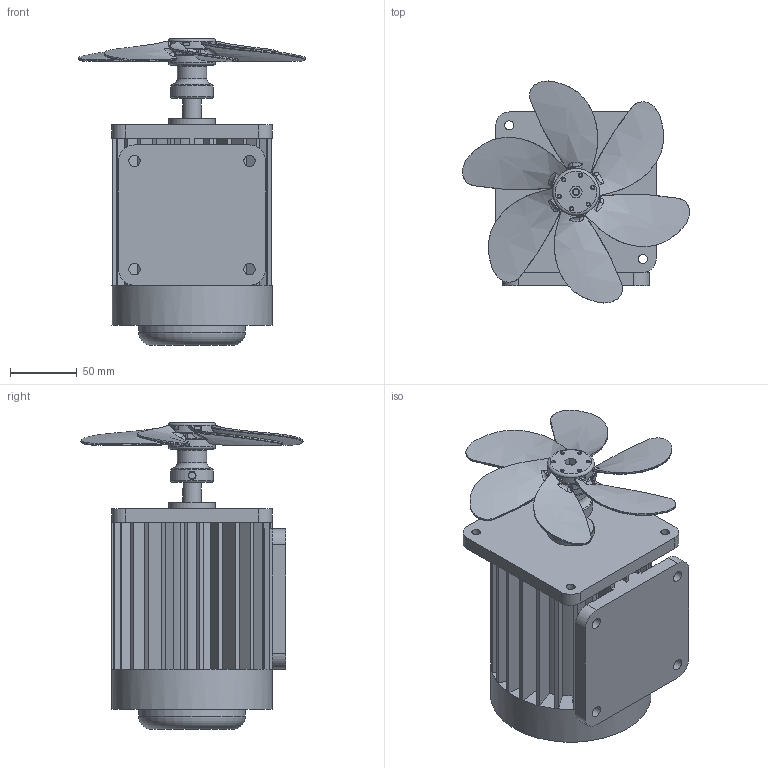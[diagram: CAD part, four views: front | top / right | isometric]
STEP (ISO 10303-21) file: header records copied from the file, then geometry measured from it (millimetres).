
FILE_DESCRIPTION(/* description */ (''),/* implementation_level */ '2;1');
FILE_NAME(/* name */ 'Assieme_motore_trifase.stp',/* time_stamp */ '2025-02-05T20:00:48+01:00',/* author */ ('R5800u'),/* organization */ (''),/* preprocessor_version */ 'ST-DEVELOPER v20',/* originating_system */ 'Autodesk Inventor 2025',/* authorisation */ '');
FILE_SCHEMA (('AUTOMOTIVE_DESIGN { 1 0 10303 214 3 1 1 }'));
Length unit declared in the file: millimetre
Products named in the file (8): Assieme_motore_trifase; albero_motore_trifase; blocco_albero; Assieme_componibile_6p_b; blocco_centrale; AS 1420 - 1973 - M3 x 16; dado_quadrato_m3; fan_assembla
Assembly tree (22 placements, depth 3):
  Assieme_motore_trifase
    albero_motore_trifase
    blocco_albero
    Assieme_componibile_6p_b
      blocco_centrale
      AS 1420 - 1973 - M3 x 16  x6
      dado_quadrato_m3  x6
      fan_assembla  x6
Bounding box: 169.7 x 166.1 x 229.5 mm (x, y, z)
Volume: 1532427.2 mm3; surface area: 254654.4 mm2
Topology: 21 solids, 21 shells, 852 faces, 2430 edges, 1632 vertices
Faces by surface type: plane 420, cylinder 210, bspline 171, torus 36, cone 15
Full cylindrical faces by diameter (mm): 2.459 x6, 3 x24, 3.2 x6, 4.3 x1, 5 x1, 5.3 x1, 5.5 x6, 6.5 x6, 6.647 x4, 8.4 x4, 14.2 x1, 22 x1, 32 x1, 35 x2, 80 x1, 120 x1
Entity records: 17747 total; most frequent: CARTESIAN_POINT 6102, ORIENTED_EDGE 2394, DIRECTION 2276, EDGE_CURVE 1197, VERTEX_POINT 781, AXIS2_PLACEMENT_3D 780, LINE 716, VECTOR 716
